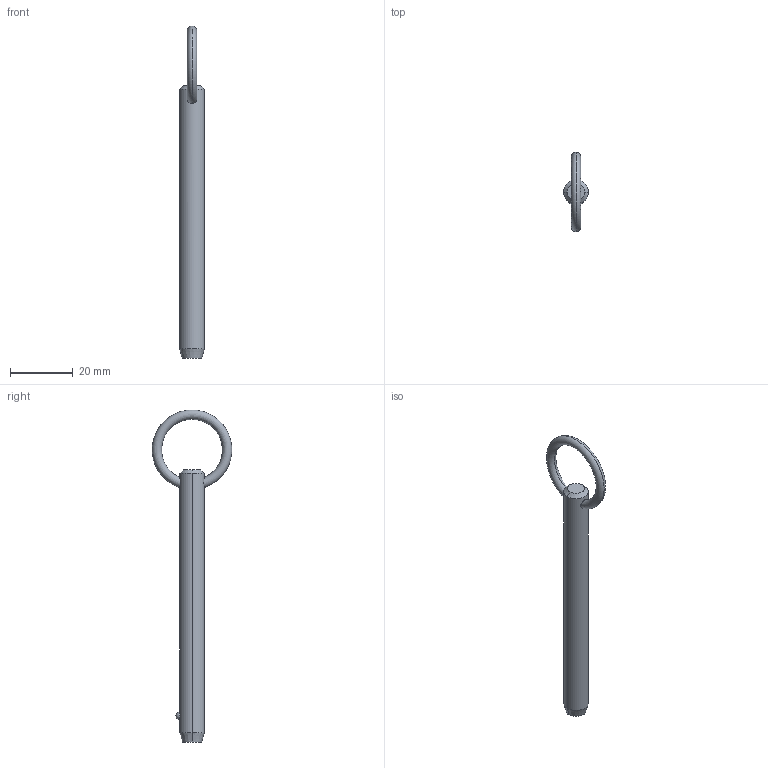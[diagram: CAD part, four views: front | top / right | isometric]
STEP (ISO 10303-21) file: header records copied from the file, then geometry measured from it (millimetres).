
FILE_DESCRIPTION (( 'STEP AP203' ), '1' );
FILE_NAME ('P1250.031-280.step', '2019-07-29T19:52:29', ( '' ), ( '' ), 'SwSTEP 2.0', 'SolidWorks 2017', '' );
FILE_SCHEMA (( 'CONFIG_CONTROL_DESIGN' ));
Length unit declared in the file: millimetre
Products named in the file (1): P1250.031-280
Bounding box: 7.93 x 25.36 x 106.01 mm (x, y, z)
Volume: 4695.9 mm3; surface area: 2802 mm2
Topology: 1 solids, 1 shells, 12 faces, 28 edges, 17 vertices
Faces by surface type: cone 4, torus 2, sphere 2, cylinder 2, plane 2
Entity records: 509 total; most frequent: CARTESIAN_POINT 176, DIRECTION 56, ORIENTED_EDGE 48, AXIS2_PLACEMENT_3D 25, EDGE_CURVE 24, VERTEX_POINT 15, EDGE_LOOP 15, ADVANCED_FACE 12
